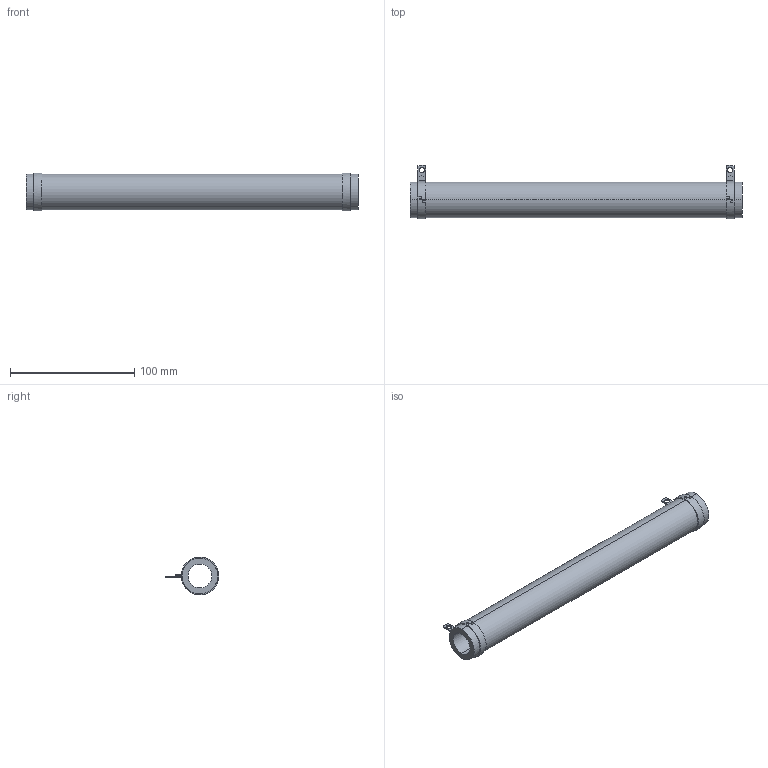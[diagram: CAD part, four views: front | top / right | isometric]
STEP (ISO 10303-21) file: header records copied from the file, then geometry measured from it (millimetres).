
FILE_DESCRIPTION (( 'STEP AP203' ), '1' );
FILE_NAME ('RBEF0375xxxxxKFB00.STEP', '2014-04-04T18:54:38', ( '' ), ( '' ), 'SwSTEP 2.0', 'SolidWorks 2012', '' );
FILE_SCHEMA (( 'CONFIG_CONTROL_DESIGN' ));
Length unit declared in the file: millimetre
Products named in the file (3): DAL013-06_DAL013-133; DAL15-160-XXX_DAL15-160-918-CLOSED; RBEF0375xxxxxKFB00
Assembly tree (3 placements, depth 2):
  RBEF0375xxxxxKFB00
    DAL013-06_DAL013-133
    DAL15-160-XXX_DAL15-160-918-CLOSED  x2
Bounding box: 266.7 x 43.03 x 30.35 mm (x, y, z)
Volume: 96200.9 mm3; surface area: 43722.3 mm2
Topology: 3 solids, 3 shells, 80 faces, 190 edges, 116 vertices
Faces by surface type: plane 42, cylinder 34, bspline 4
Entity records: 1692 total; most frequent: CARTESIAN_POINT 352, DIRECTION 229, ORIENTED_EDGE 202, EDGE_CURVE 101, AXIS2_PLACEMENT_3D 89, VERTEX_POINT 62, VECTOR 51, LINE 51
